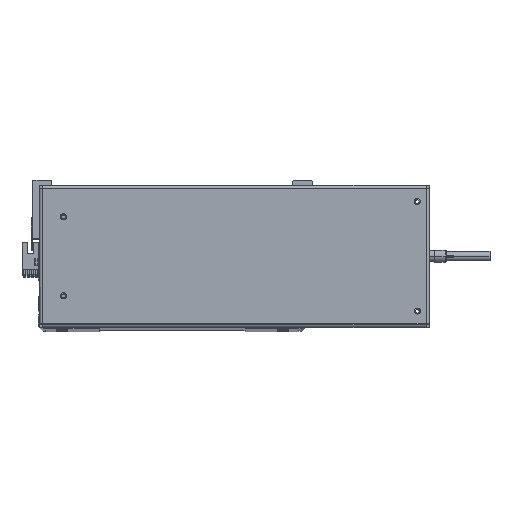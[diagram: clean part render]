
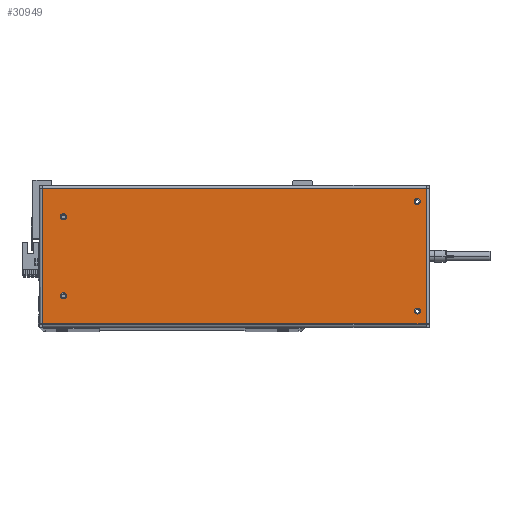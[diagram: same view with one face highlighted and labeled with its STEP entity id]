
A CAD part, top view. The second image highlights one B-rep face of the part: STEP entity #30949.
In plain terms, the highlighted planar face has unit normal (0, 0, 1).
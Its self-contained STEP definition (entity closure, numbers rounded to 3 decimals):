
#570 = VERTEX_POINT ( 'NONE', #13404 ) ;
#926 = VERTEX_POINT ( 'NONE', #15430 ) ;
#1164 = DIRECTION ( 'NONE',  ( 0., 0., 1. ) ) ;
#1292 = CARTESIAN_POINT ( 'NONE',  ( -140.5, -32.5, 0. ) ) ;
#1296 = EDGE_CURVE ( 'NONE', #926, #570, #23433, .T. ) ;
#1654 = FACE_BOUND ( 'NONE', #12756, .T. ) ;
#1742 = DIRECTION ( 'NONE',  ( 1., 0., 0. ) ) ;
#1767 = LINE ( 'NONE', #26941, #25884 ) ;
#2220 = AXIS2_PLACEMENT_3D ( 'NONE', #18686, #15277, #24474 ) ;
#3008 = CARTESIAN_POINT ( 'NONE',  ( 148., -45., 0. ) ) ;
#3086 = EDGE_LOOP ( 'NONE', ( #10774, #11232 ) ) ;
#4316 = DIRECTION ( 'NONE',  ( 0., 0., 1. ) ) ;
#4934 = VERTEX_POINT ( 'NONE', #8932 ) ;
#5102 = EDGE_CURVE ( 'NONE', #25796, #19581, #36687, .T. ) ;
#5164 = DIRECTION ( 'NONE',  ( -1., 0., 0. ) ) ;
#5185 = CARTESIAN_POINT ( 'NONE',  ( 153., -45., 0. ) ) ;
#8101 = CARTESIAN_POINT ( 'NONE',  ( -157.6, -55.6, 0. ) ) ;
#8186 = PLANE ( 'NONE',  #35436 ) ;
#8858 = CIRCLE ( 'NONE', #25987, 2.5 ) ;
#8868 = ORIENTED_EDGE ( 'NONE', *, *, #23609, .F. ) ;
#8932 = CARTESIAN_POINT ( 'NONE',  ( 157.6, -55.6, 0. ) ) ;
#9538 = CARTESIAN_POINT ( 'NONE',  ( -138., -32.5, 0. ) ) ;
#9541 = DIRECTION ( 'NONE',  ( 0., 0., 1. ) ) ;
#9737 = DIRECTION ( 'NONE',  ( 0., 0., 1. ) ) ;
#10625 = DIRECTION ( 'NONE',  ( 1., 0., 0. ) ) ;
#10660 = EDGE_CURVE ( 'NONE', #28864, #11074, #16354, .T. ) ;
#10774 = ORIENTED_EDGE ( 'NONE', *, *, #17345, .F. ) ;
#10817 = CARTESIAN_POINT ( 'NONE',  ( -140.5, -32.5, 0. ) ) ;
#11074 = VERTEX_POINT ( 'NONE', #23303 ) ;
#11232 = ORIENTED_EDGE ( 'NONE', *, *, #20818, .F. ) ;
#11276 = DIRECTION ( 'NONE',  ( 1., 0., 0. ) ) ;
#12354 = CARTESIAN_POINT ( 'NONE',  ( 157.7, 55.6, 0. ) ) ;
#12756 = EDGE_LOOP ( 'NONE', ( #24244, #23652 ) ) ;
#12908 = AXIS2_PLACEMENT_3D ( 'NONE', #13538, #4316, #26443 ) ;
#13404 = CARTESIAN_POINT ( 'NONE',  ( 153., 45., 0. ) ) ;
#13538 = CARTESIAN_POINT ( 'NONE',  ( 150.5, 45., 0. ) ) ;
#13956 = ORIENTED_EDGE ( 'NONE', *, *, #10660, .F. ) ;
#14324 = CARTESIAN_POINT ( 'NONE',  ( -140.5, 32.5, 0. ) ) ;
#14622 = EDGE_CURVE ( 'NONE', #4934, #26984, #24452, .T. ) ;
#14651 = ORIENTED_EDGE ( 'NONE', *, *, #32072, .T. ) ;
#15277 = DIRECTION ( 'NONE',  ( 0., 0., 1. ) ) ;
#15430 = CARTESIAN_POINT ( 'NONE',  ( 148., 45., 0. ) ) ;
#16147 = ORIENTED_EDGE ( 'NONE', *, *, #39420, .F. ) ;
#16354 = CIRCLE ( 'NONE', #20880, 2.5 ) ;
#16762 = DIRECTION ( 'NONE',  ( 0., 0., 1. ) ) ;
#16886 = FACE_OUTER_BOUND ( 'NONE', #36416, .T. ) ;
#16930 = DIRECTION ( 'NONE',  ( 0., 0., 1. ) ) ;
#17071 = LINE ( 'NONE', #18036, #21509 ) ;
#17345 = EDGE_CURVE ( 'NONE', #26156, #36604, #38500, .T. ) ;
#17463 = DIRECTION ( 'NONE',  ( 1., 0., 0. ) ) ;
#17496 = CIRCLE ( 'NONE', #37258, 2.5 ) ;
#18036 = CARTESIAN_POINT ( 'NONE',  ( -157.6, 55.6, 0. ) ) ;
#18523 = DIRECTION ( 'NONE',  ( 0., 1., 0. ) ) ;
#18686 = CARTESIAN_POINT ( 'NONE',  ( 150.5, 45., 0. ) ) ;
#18841 = FACE_BOUND ( 'NONE', #3086, .T. ) ;
#19095 = CARTESIAN_POINT ( 'NONE',  ( -138., 32.5, 0. ) ) ;
#19581 = VERTEX_POINT ( 'NONE', #5185 ) ;
#19704 = CIRCLE ( 'NONE', #22846, 2.5 ) ;
#20398 = EDGE_CURVE ( 'NONE', #23858, #23647, #17071, .T. ) ;
#20818 = EDGE_CURVE ( 'NONE', #36604, #26156, #17496, .T. ) ;
#20880 = AXIS2_PLACEMENT_3D ( 'NONE', #26101, #16762, #31881 ) ;
#21509 = VECTOR ( 'NONE', #37308, 1000. ) ;
#21699 = DIRECTION ( 'NONE',  ( -1., 0., 0. ) ) ;
#22846 = AXIS2_PLACEMENT_3D ( 'NONE', #37758, #9541, #40382 ) ;
#23155 = AXIS2_PLACEMENT_3D ( 'NONE', #10817, #35707, #1742 ) ;
#23196 = LINE ( 'NONE', #12354, #27128 ) ;
#23303 = CARTESIAN_POINT ( 'NONE',  ( -143., 32.5, 0. ) ) ;
#23433 = CIRCLE ( 'NONE', #2220, 2.5 ) ;
#23609 = EDGE_CURVE ( 'NONE', #11074, #28864, #8858, .T. ) ;
#23647 = VERTEX_POINT ( 'NONE', #8101 ) ;
#23652 = ORIENTED_EDGE ( 'NONE', *, *, #5102, .F. ) ;
#23858 = VERTEX_POINT ( 'NONE', #31196 ) ;
#24106 = AXIS2_PLACEMENT_3D ( 'NONE', #28571, #9737, #28843 ) ;
#24244 = ORIENTED_EDGE ( 'NONE', *, *, #24300, .F. ) ;
#24300 = EDGE_CURVE ( 'NONE', #19581, #25796, #19704, .T. ) ;
#24452 = LINE ( 'NONE', #37504, #39220 ) ;
#24474 = DIRECTION ( 'NONE',  ( 1., 0., 0. ) ) ;
#25239 = ORIENTED_EDGE ( 'NONE', *, *, #29591, .T. ) ;
#25769 = FACE_BOUND ( 'NONE', #31599, .T. ) ;
#25796 = VERTEX_POINT ( 'NONE', #3008 ) ;
#25884 = VECTOR ( 'NONE', #11276, 1000. ) ;
#25987 = AXIS2_PLACEMENT_3D ( 'NONE', #14324, #16930, #17463 ) ;
#26101 = CARTESIAN_POINT ( 'NONE',  ( -140.5, 32.5, 0. ) ) ;
#26156 = VERTEX_POINT ( 'NONE', #9538 ) ;
#26443 = DIRECTION ( 'NONE',  ( 1., 0., 0. ) ) ;
#26941 = CARTESIAN_POINT ( 'NONE',  ( -157.7, -55.6, 0. ) ) ;
#26984 = VERTEX_POINT ( 'NONE', #40056 ) ;
#27004 = EDGE_LOOP ( 'NONE', ( #16147, #27191 ) ) ;
#27128 = VECTOR ( 'NONE', #21699, 1000. ) ;
#27191 = ORIENTED_EDGE ( 'NONE', *, *, #1296, .F. ) ;
#27801 = ORIENTED_EDGE ( 'NONE', *, *, #20398, .T. ) ;
#28571 = CARTESIAN_POINT ( 'NONE',  ( 150.5, -45., 0. ) ) ;
#28843 = DIRECTION ( 'NONE',  ( 1., 0., 0. ) ) ;
#28864 = VERTEX_POINT ( 'NONE', #19095 ) ;
#29591 = EDGE_CURVE ( 'NONE', #23647, #4934, #1767, .T. ) ;
#30949 = ADVANCED_FACE ( 'NONE', ( #18841, #25769, #1654, #34586, #16886 ), #8186, .F. ) ;
#31196 = CARTESIAN_POINT ( 'NONE',  ( -157.6, 55.6, 0. ) ) ;
#31599 = EDGE_LOOP ( 'NONE', ( #13956, #8868 ) ) ;
#31881 = DIRECTION ( 'NONE',  ( 1., 0., 0. ) ) ;
#32072 = EDGE_CURVE ( 'NONE', #26984, #23858, #23196, .T. ) ;
#33009 = ORIENTED_EDGE ( 'NONE', *, *, #14622, .T. ) ;
#33490 = CARTESIAN_POINT ( 'NONE',  ( -143., -32.5, 0. ) ) ;
#34586 = FACE_BOUND ( 'NONE', #27004, .T. ) ;
#35436 = AXIS2_PLACEMENT_3D ( 'NONE', #36242, #35974, #5164 ) ;
#35707 = DIRECTION ( 'NONE',  ( 0., 0., 1. ) ) ;
#35974 = DIRECTION ( 'NONE',  ( 0., 0., -1. ) ) ;
#36242 = CARTESIAN_POINT ( 'NONE',  ( 157.7, 58.5, 0. ) ) ;
#36416 = EDGE_LOOP ( 'NONE', ( #27801, #25239, #33009, #14651 ) ) ;
#36604 = VERTEX_POINT ( 'NONE', #33490 ) ;
#36687 = CIRCLE ( 'NONE', #24106, 2.5 ) ;
#37258 = AXIS2_PLACEMENT_3D ( 'NONE', #1292, #1164, #10625 ) ;
#37308 = DIRECTION ( 'NONE',  ( 0., -1., 0. ) ) ;
#37504 = CARTESIAN_POINT ( 'NONE',  ( 157.6, -55.6, 0. ) ) ;
#37758 = CARTESIAN_POINT ( 'NONE',  ( 150.5, -45., 0. ) ) ;
#38187 = CIRCLE ( 'NONE', #12908, 2.5 ) ;
#38500 = CIRCLE ( 'NONE', #23155, 2.5 ) ;
#39220 = VECTOR ( 'NONE', #18523, 1000. ) ;
#39420 = EDGE_CURVE ( 'NONE', #570, #926, #38187, .T. ) ;
#40056 = CARTESIAN_POINT ( 'NONE',  ( 157.6, 55.6, 0. ) ) ;
#40382 = DIRECTION ( 'NONE',  ( 1., 0., 0. ) ) ;
